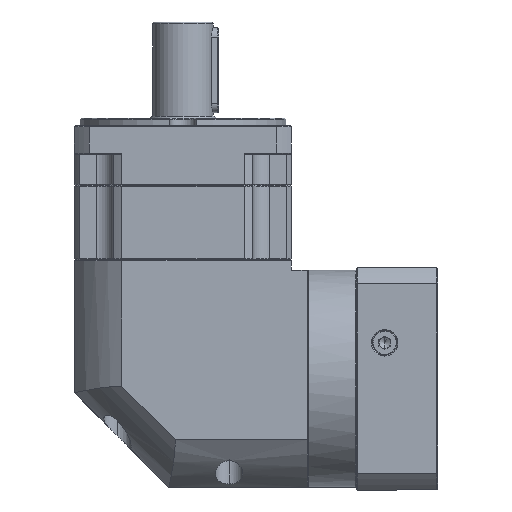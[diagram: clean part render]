
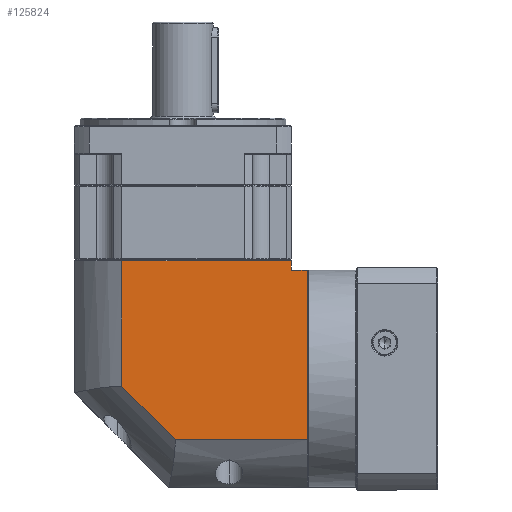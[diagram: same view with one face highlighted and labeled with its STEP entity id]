
A CAD part, left-side view. The second image highlights one B-rep face of the part: STEP entity #125824.
In plain terms, the highlighted planar face has unit normal (-1, 0, 0).
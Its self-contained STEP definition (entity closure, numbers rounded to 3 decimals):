
#187 = VERTEX_POINT ( 'NONE', #96234 ) ;
#4884 = CARTESIAN_POINT ( 'NONE',  ( -280.587, -70.771, 75.032 ) ) ;
#7653 = VECTOR ( 'NONE', #50059, 1000. ) ;
#7762 = ORIENTED_EDGE ( 'NONE', *, *, #8781, .F. ) ;
#8397 = CARTESIAN_POINT ( 'NONE',  ( -280.587, -62.371, 63.532 ) ) ;
#8781 = EDGE_CURVE ( 'NONE', #98696, #84963, #165674, .T. ) ;
#9183 = EDGE_CURVE ( 'NONE', #83465, #187, #142046, .T. ) ;
#12685 = CARTESIAN_POINT ( 'NONE',  ( -280.587, 52.629, 68.532 ) ) ;
#13074 = VECTOR ( 'NONE', #85335, 1000. ) ;
#17029 = PLANE ( 'NONE',  #50250 ) ;
#20966 = VECTOR ( 'NONE', #72241, 1000. ) ;
#25274 = EDGE_CURVE ( 'NONE', #83465, #67393, #151585, .T. ) ;
#28516 = VERTEX_POINT ( 'NONE', #50356 ) ;
#33085 = VECTOR ( 'NONE', #59633, 1000. ) ;
#33301 = CARTESIAN_POINT ( 'NONE',  ( -280.587, 27.528, 75.032 ) ) ;
#35036 = CARTESIAN_POINT ( 'NONE',  ( -280.587, -70.771, 63.532 ) ) ;
#35441 = FACE_OUTER_BOUND ( 'NONE', #87022, .T. ) ;
#38880 = ORIENTED_EDGE ( 'NONE', *, *, #116395, .T. ) ;
#39244 = VECTOR ( 'NONE', #115762, 1000. ) ;
#45927 = CARTESIAN_POINT ( 'NONE',  ( -280.587, -62.371, 68.532 ) ) ;
#50059 = DIRECTION ( 'NONE',  ( 0., 1., 0. ) ) ;
#50250 = AXIS2_PLACEMENT_3D ( 'NONE', #70994, #164944, #84532 ) ;
#50356 = CARTESIAN_POINT ( 'NONE',  ( -280.587, 27.528, 1.971 ) ) ;
#56375 = EDGE_CURVE ( 'NONE', #103103, #28516, #140143, .T. ) ;
#58557 = VECTOR ( 'NONE', #120020, 1000. ) ;
#59633 = DIRECTION ( 'NONE',  ( 0., 0.707, 0.707 ) ) ;
#67393 = VERTEX_POINT ( 'NONE', #160059 ) ;
#70994 = CARTESIAN_POINT ( 'NONE',  ( -280.587, 52.629, 75.032 ) ) ;
#72241 = DIRECTION ( 'NONE',  ( 0., 0., 1. ) ) ;
#73642 = EDGE_CURVE ( 'NONE', #28516, #98696, #149655, .T. ) ;
#77427 = ORIENTED_EDGE ( 'NONE', *, *, #9183, .T. ) ;
#78288 = VECTOR ( 'NONE', #127185, 1000. ) ;
#79042 = ORIENTED_EDGE ( 'NONE', *, *, #73642, .F. ) ;
#81202 = ORIENTED_EDGE ( 'NONE', *, *, #56375, .F. ) ;
#83465 = VERTEX_POINT ( 'NONE', #35036 ) ;
#84532 = DIRECTION ( 'NONE',  ( 0., 1., 0. ) ) ;
#84963 = VERTEX_POINT ( 'NONE', #45927 ) ;
#85335 = DIRECTION ( 'NONE',  ( 0., 0., -1. ) ) ;
#86853 = ORIENTED_EDGE ( 'NONE', *, *, #160082, .F. ) ;
#87022 = EDGE_LOOP ( 'NONE', ( #79042, #81202, #86853, #127646, #77427, #38880, #7762 ) ) ;
#96234 = CARTESIAN_POINT ( 'NONE',  ( -280.587, -62.371, 63.532 ) ) ;
#96638 = LINE ( 'NONE', #98723, #20966 ) ;
#98696 = VERTEX_POINT ( 'NONE', #162288 ) ;
#98723 = CARTESIAN_POINT ( 'NONE',  ( -280.587, -62.371, -51.468 ) ) ;
#103103 = VERTEX_POINT ( 'NONE', #111298 ) ;
#111298 = CARTESIAN_POINT ( 'NONE',  ( -280.587, -0.81, -26.368 ) ) ;
#114724 = LINE ( 'NONE', #116933, #7653 ) ;
#115762 = DIRECTION ( 'NONE',  ( 0., 1., 0. ) ) ;
#116395 = EDGE_CURVE ( 'NONE', #187, #84963, #96638, .T. ) ;
#116933 = CARTESIAN_POINT ( 'NONE',  ( -280.587, 52.629, -26.368 ) ) ;
#120020 = DIRECTION ( 'NONE',  ( 0., -1., 0. ) ) ;
#125824 = ADVANCED_FACE ( 'NONE', ( #35441 ), #17029, .F. ) ;
#127185 = DIRECTION ( 'NONE',  ( 0., 0., 1. ) ) ;
#127646 = ORIENTED_EDGE ( 'NONE', *, *, #25274, .F. ) ;
#140143 = LINE ( 'NONE', #167035, #33085 ) ;
#142046 = LINE ( 'NONE', #8397, #39244 ) ;
#149655 = LINE ( 'NONE', #33301, #78288 ) ;
#151585 = LINE ( 'NONE', #4884, #13074 ) ;
#160059 = CARTESIAN_POINT ( 'NONE',  ( -280.587, -70.771, -26.368 ) ) ;
#160082 = EDGE_CURVE ( 'NONE', #67393, #103103, #114724, .T. ) ;
#162288 = CARTESIAN_POINT ( 'NONE',  ( -280.587, 27.528, 68.532 ) ) ;
#164944 = DIRECTION ( 'NONE',  ( 1., 0., 0. ) ) ;
#165674 = LINE ( 'NONE', #12685, #58557 ) ;
#167035 = CARTESIAN_POINT ( 'NONE',  ( -280.587, -0.81, -26.368 ) ) ;
